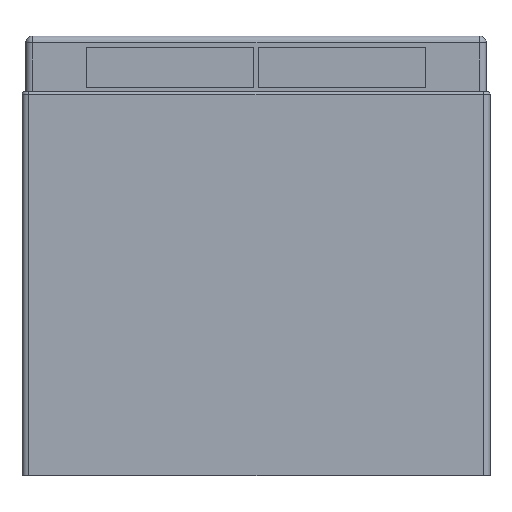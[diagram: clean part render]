
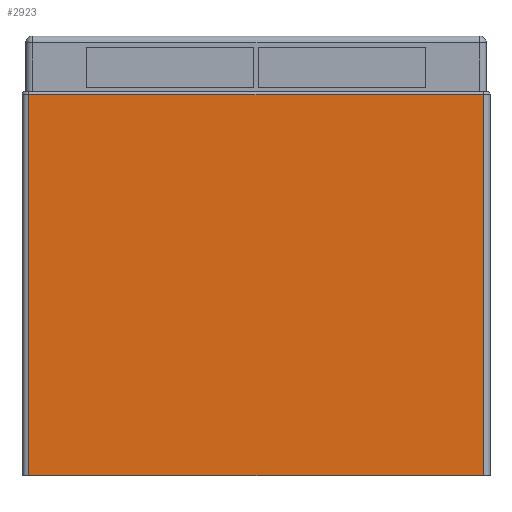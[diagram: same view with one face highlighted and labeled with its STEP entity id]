
A CAD part, front view. The second image highlights one B-rep face of the part: STEP entity #2923.
In plain terms, the highlighted planar face has unit normal (0, -1, 0).
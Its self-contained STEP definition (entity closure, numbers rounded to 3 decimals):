
#89 = ORIENTED_EDGE ( 'NONE', *, *, #207, .T. ) ;
#97 = AXIS2_PLACEMENT_3D ( 'NONE', #1519, #1541, #1996 ) ;
#100 = DIRECTION ( 'NONE',  ( 0., 0., 1. ) ) ;
#207 = EDGE_CURVE ( 'NONE', #326, #3200, #2974, .T. ) ;
#315 = VECTOR ( 'NONE', #1051, 1000. ) ;
#326 = VERTEX_POINT ( 'NONE', #2533 ) ;
#384 = VECTOR ( 'NONE', #100, 1000. ) ;
#553 = ORIENTED_EDGE ( 'NONE', *, *, #1475, .T. ) ;
#702 = VERTEX_POINT ( 'NONE', #2490 ) ;
#1040 = CARTESIAN_POINT ( 'NONE',  ( -33.113, -62.213, 0. ) ) ;
#1041 = LINE ( 'NONE', #1887, #2609 ) ;
#1051 = DIRECTION ( 'NONE',  ( 1., 0., 0. ) ) ;
#1276 = LINE ( 'NONE', #3122, #1668 ) ;
#1475 = EDGE_CURVE ( 'NONE', #702, #1628, #1041, .T. ) ;
#1519 = CARTESIAN_POINT ( 'NONE',  ( -33.113, -62.213, 0. ) ) ;
#1541 = DIRECTION ( 'NONE',  ( 0., -1., 0. ) ) ;
#1591 = CARTESIAN_POINT ( 'NONE',  ( 142.147, -62.213, 0. ) ) ;
#1628 = VERTEX_POINT ( 'NONE', #1669 ) ;
#1668 = VECTOR ( 'NONE', #2570, 1000. ) ;
#1669 = CARTESIAN_POINT ( 'NONE',  ( -30.573, -62.213, 144.78 ) ) ;
#1729 = FACE_OUTER_BOUND ( 'NONE', #2117, .T. ) ;
#1742 = EDGE_CURVE ( 'NONE', #3200, #702, #2145, .T. ) ;
#1787 = EDGE_CURVE ( 'NONE', #1628, #326, #1276, .T. ) ;
#1887 = CARTESIAN_POINT ( 'NONE',  ( -33.113, -62.213, 144.78 ) ) ;
#1901 = DIRECTION ( 'NONE',  ( -1., 0., 0. ) ) ;
#1996 = DIRECTION ( 'NONE',  ( 0., 0., -1. ) ) ;
#2117 = EDGE_LOOP ( 'NONE', ( #2986, #553, #3015, #89 ) ) ;
#2145 = LINE ( 'NONE', #1591, #384 ) ;
#2388 = CARTESIAN_POINT ( 'NONE',  ( 142.147, -62.213, 0. ) ) ;
#2490 = CARTESIAN_POINT ( 'NONE',  ( 142.147, -62.213, 144.78 ) ) ;
#2533 = CARTESIAN_POINT ( 'NONE',  ( -30.573, -62.213, 0. ) ) ;
#2570 = DIRECTION ( 'NONE',  ( 0., 0., -1. ) ) ;
#2609 = VECTOR ( 'NONE', #1901, 1000. ) ;
#2769 = PLANE ( 'NONE',  #97 ) ;
#2923 = ADVANCED_FACE ( 'NONE', ( #1729 ), #2769, .T. ) ;
#2974 = LINE ( 'NONE', #1040, #315 ) ;
#2986 = ORIENTED_EDGE ( 'NONE', *, *, #1742, .T. ) ;
#3015 = ORIENTED_EDGE ( 'NONE', *, *, #1787, .T. ) ;
#3122 = CARTESIAN_POINT ( 'NONE',  ( -30.573, -62.213, 0. ) ) ;
#3200 = VERTEX_POINT ( 'NONE', #2388 ) ;
